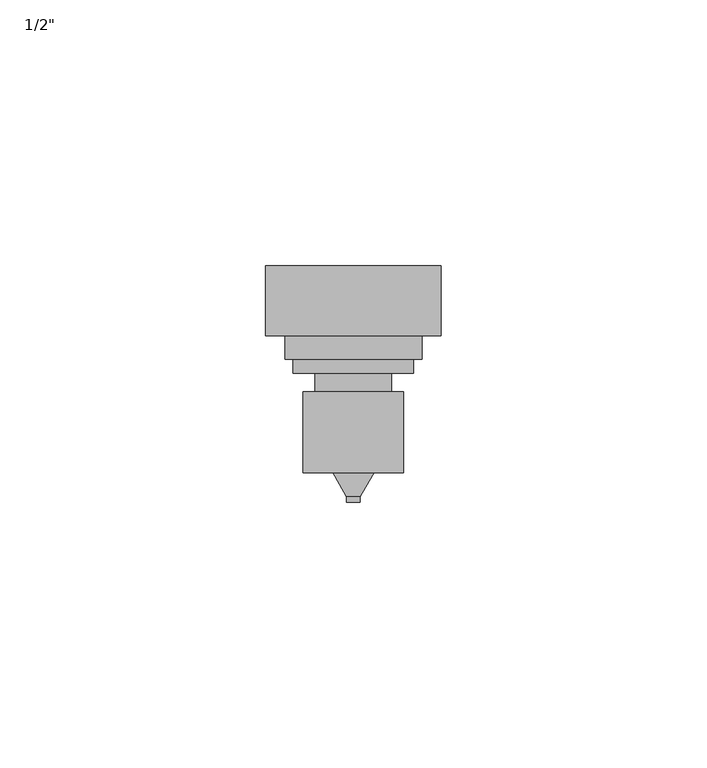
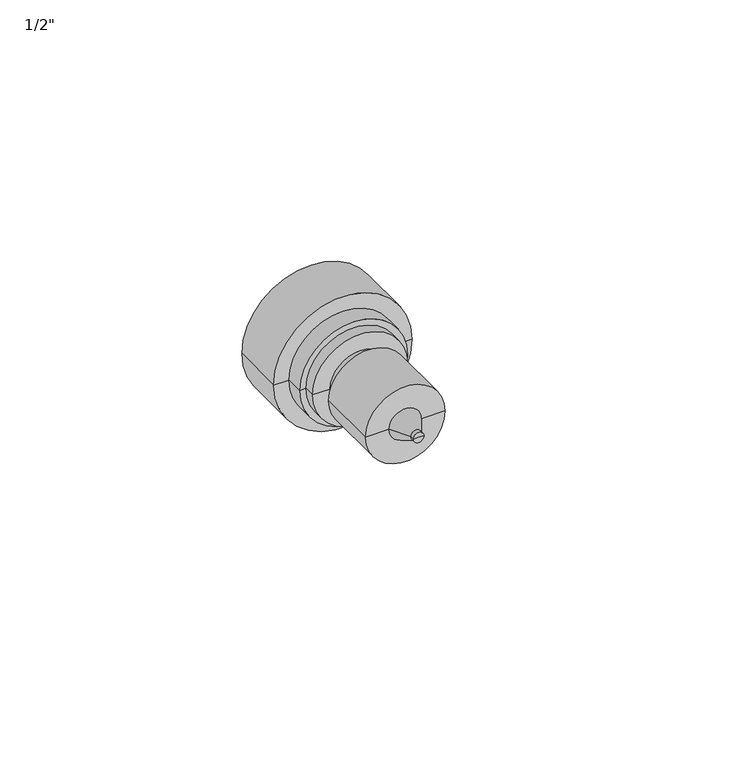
"""IFC4 building model written with IfcOpenShell, lengths in millimetres: valve geometry."""

from ifc_helpers import new_model, si_unit, frame, origin, place, context, project, spatial, polyline, circle_curve, source, transform, mapped, element, save
from ifc_brep_helpers import plane_surface, cylinder_surface, revolved_surface, advanced_brep


def valve_d2df9092(model_context):
    return source(origin(), model_context, "Body", "AdvancedBrep", [
        advanced_brep(
        [(-36.7247823, 53.0194693, 0.0), (-10.9859869, 53.0194693, 0.0), (-10.9859869, 48.6379693, 0.0), (-36.7247823, 48.6379693, 0.0), (-40.3653846, 53.0194693, 0.0), (-7.3453846, 53.0194693, 0.0), (-40.3653846, 66.1639693, 0.0), (-7.3453846, 66.1639693, 0.0), (-23.8553846, 66.1639693, 0.0), (-25.1034729, 21.7139693, 0.0), (-22.6072963, 21.7139693, 0.0), (-23.8553846, 21.7139693, 0.0), (-25.1034729, 22.7628828, 0.0), (-22.6072963, 22.7628828, 0.0), (-27.7041321, 27.2673566, 0.0), (-20.0066371, 27.2673566, 0.0), (-33.3053335, 27.2673566, 0.0), (-14.4054357, 27.2673566, 0.0), (-33.3053335, 42.5243324, 0.0), (-14.4054357, 42.5243324, 0.0), (-31.0320202, 42.5243324, 0.0), (-16.678749, 42.5243324, 0.0), (-31.0320202, 45.9149625, 0.0), (-16.678749, 45.9149625, 0.0), (-35.1922259, 45.9149625, 0.0), (-12.5185433, 45.9149625, 0.0), (-35.1922259, 48.6379693, 0.0), (-12.5185433, 48.6379693, 0.0)],
        [
            (0, 1, circle_curve(frame((-23.8553846, 53.0194693, 0.0), z_axis=(0.0, -1.0, 0.0), x_axis=(1.0, 0.0, 0.0)), 12.8693977)),
            (1, 2),
            (2, 3, circle_curve(frame((-23.8553846, 48.6379693, 0.0), z_axis=(0.0, 1.0, 0.0), x_axis=(1.0, 0.0, 0.0)), 12.8693977)),
            (3, 0),
            (1, 0, circle_curve(frame((-23.8553846, 53.0194693, 0.0), z_axis=(0.0, -1.0, 0.0), x_axis=(1.0, 0.0, 0.0)), 12.8693977)),
            (3, 2, circle_curve(frame((-23.8553846, 48.6379693, 0.0), z_axis=(0.0, 1.0, 0.0), x_axis=(1.0, 0.0, 0.0)), 12.8693977)),
            (4, 5, circle_curve(frame((-23.8553846, 53.0194693, 0.0), z_axis=(0.0, -1.0, 0.0), x_axis=(1.0, 0.0, 0.0)), 16.51)),
            (5, 1),
            (0, 4),
            (5, 4, circle_curve(frame((-23.8553846, 53.0194693, 0.0), z_axis=(0.0, -1.0, 0.0), x_axis=(1.0, 0.0, 0.0)), 16.51)),
            (6, 7, circle_curve(frame((-23.8553846, 66.1639693, 0.0), z_axis=(0.0, -1.0, 0.0), x_axis=(1.0, 0.0, 0.0)), 16.51)),
            (7, 5),
            (4, 6),
            (7, 6, circle_curve(frame((-23.8553846, 66.1639693, 0.0), z_axis=(0.0, -1.0, 0.0), x_axis=(1.0, 0.0, 0.0)), 16.51)),
            (8, 7),
            (6, 8),
            (9, 10, circle_curve(frame((-23.8553846, 21.7139693, 0.0), z_axis=(0.0, -1.0, 0.0), x_axis=(1.0, 0.0, 0.0)), 1.2480883)),
            (10, 11),
            (11, 9),
            (10, 9, circle_curve(frame((-23.8553846, 21.7139693, 0.0), z_axis=(0.0, -1.0, 0.0), x_axis=(1.0, 0.0, 0.0)), 1.2480883)),
            (12, 13, circle_curve(frame((-23.8553846, 22.7628828, 0.0), z_axis=(0.0, -1.0, 0.0), x_axis=(1.0, 0.0, 0.0)), 1.2480883)),
            (13, 10),
            (9, 12),
            (13, 12, circle_curve(frame((-23.8553846, 22.7628828, 0.0), z_axis=(0.0, -1.0, 0.0), x_axis=(1.0, 0.0, 0.0)), 1.2480883)),
            (14, 15, circle_curve(frame((-23.8553846, 27.2673566, 0.0), z_axis=(0.0, -1.0, 0.0), x_axis=(1.0, 0.0, 0.0)), 3.8487475)),
            (15, 13),
            (12, 14),
            (15, 14, circle_curve(frame((-23.8553846, 27.2673566, 0.0), z_axis=(0.0, -1.0, 0.0), x_axis=(1.0, 0.0, 0.0)), 3.8487475)),
            (16, 17, circle_curve(frame((-23.8553846, 27.2673566, 0.0), z_axis=(0.0, -1.0, 0.0), x_axis=(1.0, 0.0, 0.0)), 9.4499489)),
            (17, 15),
            (14, 16),
            (17, 16, circle_curve(frame((-23.8553846, 27.2673566, 0.0), z_axis=(0.0, -1.0, 0.0), x_axis=(1.0, 0.0, 0.0)), 9.4499489)),
            (18, 19, circle_curve(frame((-23.8553846, 42.5243324, 0.0), z_axis=(0.0, -1.0, 0.0), x_axis=(1.0, 0.0, 0.0)), 9.4499489)),
            (19, 17),
            (16, 18),
            (19, 18, circle_curve(frame((-23.8553846, 42.5243324, 0.0), z_axis=(0.0, -1.0, 0.0), x_axis=(1.0, 0.0, 0.0)), 9.4499489)),
            (20, 21, circle_curve(frame((-23.8553846, 42.5243324, 0.0), z_axis=(0.0, -1.0, 0.0), x_axis=(1.0, 0.0, 0.0)), 7.1766356)),
            (21, 19),
            (18, 20),
            (21, 20, circle_curve(frame((-23.8553846, 42.5243324, 0.0), z_axis=(0.0, -1.0, 0.0), x_axis=(1.0, 0.0, 0.0)), 7.1766356)),
            (22, 23, circle_curve(frame((-23.8553846, 45.9149625, 0.0), z_axis=(0.0, -1.0, 0.0), x_axis=(1.0, 0.0, 0.0)), 7.1766356)),
            (23, 21),
            (20, 22),
            (23, 22, circle_curve(frame((-23.8553846, 45.9149625, 0.0), z_axis=(0.0, -1.0, 0.0), x_axis=(1.0, 0.0, 0.0)), 7.1766356)),
            (24, 25, circle_curve(frame((-23.8553846, 45.9149625, 0.0), z_axis=(0.0, -1.0, 0.0), x_axis=(1.0, 0.0, 0.0)), 11.3368413)),
            (25, 23),
            (22, 24),
            (25, 24, circle_curve(frame((-23.8553846, 45.9149625, 0.0), z_axis=(0.0, -1.0, 0.0), x_axis=(1.0, 0.0, 0.0)), 11.3368413)),
            (26, 27, circle_curve(frame((-23.8553846, 48.6379693, 0.0), z_axis=(0.0, -1.0, 0.0), x_axis=(1.0, 0.0, 0.0)), 11.3368413)),
            (27, 25),
            (24, 26),
            (27, 26, circle_curve(frame((-23.8553846, 48.6379693, 0.0), z_axis=(0.0, -1.0, 0.0), x_axis=(1.0, 0.0, 0.0)), 11.3368413)),
            (2, 27),
            (26, 3),
        ],
        [
            cylinder_surface(frame((-23.8553846, 66.1639693, 0.0), z_axis=(0.0, 1.0, 0.0), x_axis=(1.0, 0.0, 0.0)), 12.8693977),
            plane_surface(frame((-23.8553846, 53.0194693, 0.0), z_axis=(0.0, -1.0, 0.0), x_axis=(1.0, 0.0, 0.0))),
            cylinder_surface(frame((-23.8553846, 66.1639693, 0.0), z_axis=(0.0, 1.0, 0.0), x_axis=(1.0, 0.0, 0.0)), 16.51),
            plane_surface(frame((-23.8553846, 66.1639693, 0.0), z_axis=(0.0, 1.0, 0.0), x_axis=(1.0, 0.0, 0.0))),
            plane_surface(frame((-23.8553846, 21.7139693, 0.0), z_axis=(0.0, -1.0, 0.0), x_axis=(1.0, 0.0, 0.0))),
            cylinder_surface(frame((-23.8553846, 66.1639693, 0.0), z_axis=(0.0, 1.0, 0.0), x_axis=(1.0, 0.0, 0.0)), 1.2480883),
            revolved_surface(polyline([(-22.6072963, 22.7628828, 0.0), (-20.0066371, 27.2673566, 0.0)]), (-23.8553846, 66.1639693, 0.0), (0.0, 1.0, 0.0)),
            plane_surface(frame((-23.8553846, 27.2673566, 0.0), z_axis=(0.0, -1.0, 0.0), x_axis=(1.0, 0.0, 0.0))),
            cylinder_surface(frame((-23.8553846, 66.1639693, 0.0), z_axis=(0.0, 1.0, 0.0), x_axis=(1.0, 0.0, 0.0)), 9.4499489),
            plane_surface(frame((-23.8553846, 42.5243324, 0.0), z_axis=(0.0, 1.0, 0.0), x_axis=(1.0, 0.0, 0.0))),
            cylinder_surface(frame((-23.8553846, 66.1639693, 0.0), z_axis=(0.0, 1.0, 0.0), x_axis=(1.0, 0.0, 0.0)), 7.1766356),
            plane_surface(frame((-23.8553846, 45.9149625, 0.0), z_axis=(0.0, -1.0, 0.0), x_axis=(1.0, 0.0, 0.0))),
            cylinder_surface(frame((-23.8553846, 66.1639693, 0.0), z_axis=(0.0, 1.0, 0.0), x_axis=(1.0, 0.0, 0.0)), 11.3368413),
            plane_surface(frame((-23.8553846, 48.6379693, 0.0), z_axis=(0.0, -1.0, 0.0), x_axis=(1.0, 0.0, 0.0))),
        ],
        [
            (0, [[1, 2, 3, 4]]),
            (0, [[5, -4, 6, -2]]),
            (1, [[7, 8, -1, 9]]),
            (1, [[10, -9, -5, -8]]),
            (2, [[11, 12, -7, 13]]),
            (2, [[14, -13, -10, -12]]),
            (3, [[15, -11, 16]]),
            (3, [[-16, -14, -15]]),
            (4, [[17, 18, 19]]),
            (4, [[20, -19, -18]]),
            (5, [[21, 22, -17, 23]]),
            (5, [[24, -23, -20, -22]]),
            (6, [[25, 26, -21, 27]]),
            (6, [[28, -27, -24, -26]]),
            (7, [[29, 30, -25, 31]]),
            (7, [[32, -31, -28, -30]]),
            (8, [[33, 34, -29, 35]]),
            (8, [[36, -35, -32, -34]]),
            (9, [[37, 38, -33, 39]]),
            (9, [[40, -39, -36, -38]]),
            (10, [[41, 42, -37, 43]]),
            (10, [[44, -43, -40, -42]]),
            (11, [[45, 46, -41, 47]]),
            (11, [[48, -47, -44, -46]]),
            (12, [[49, 50, -45, 51]]),
            (12, [[52, -51, -48, -50]]),
            (13, [[-3, 53, -49, 54]]),
            (13, [[-6, -54, -52, -53]]),
        ],
    ),
    ])


if __name__ == "__main__":
    model = new_model("IFC4")
    model_context = context("Model", 3, world=origin())
    ifc_project = project(units=[si_unit("LENGTHUNIT", "METRE", prefix="MILLI")], contexts=[model_context])
    site = spatial("IfcSite", under=ifc_project)
    building = spatial("IfcBuilding", under=site)
    placement = place(None, origin())
    valve_shape = valve_d2df9092(model_context)
    element("IfcValve", 1, ObjectType="Hydraulic Coupler Nipple : 1/2\"", at=placement, inside=building, context=model_context, shape_type="MappedRepresentation", body=[
        mapped(valve_shape, transform((0.0, 0.0, 0.0), x_axis=(1.0, 0.0, 0.0), y_axis=(0.0, 1.0, 0.0), z_axis=(0.0, 0.0, 1.0))),
    ])
    save(model, "model.ifc")
